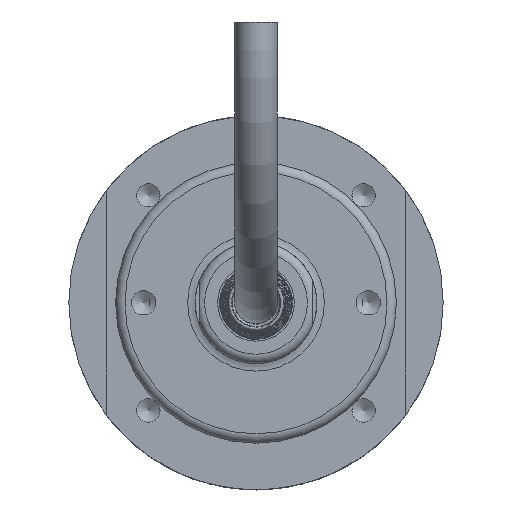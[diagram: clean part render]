
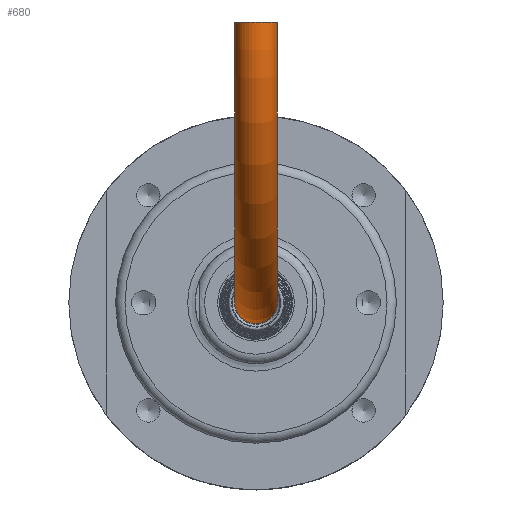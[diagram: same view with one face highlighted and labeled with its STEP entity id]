
A CAD part, front view. The second image highlights one B-rep face of the part: STEP entity #680.
In plain terms, the highlighted toroidal (fillet/blend) face has major radius 30 mm and minor radius 2.25 mm.
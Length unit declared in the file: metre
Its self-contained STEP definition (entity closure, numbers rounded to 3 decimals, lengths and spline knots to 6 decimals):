
#680 = ADVANCED_FACE( '', ( #893, #894 ), #895, .T. );
#893 = FACE_OUTER_BOUND( '', #12612, .T. );
#894 = FACE_OUTER_BOUND( '', #12613, .T. );
#895 = TOROIDAL_SURFACE( '', #12614, 0.03, 0.00225 );
#12612 = EDGE_LOOP( '', ( #13034 ) );
#12613 = EDGE_LOOP( '', ( #13035 ) );
#12614 = AXIS2_PLACEMENT_3D( '', #13036, #13037, #13038 );
#13034 = ORIENTED_EDGE( '', *, *, #13269, .T. );
#13035 = ORIENTED_EDGE( '', *, *, #13270, .F. );
#13036 = CARTESIAN_POINT( '', ( 0., -0.043, 0.03 ) );
#13037 = DIRECTION( '', ( -1., 0., 0. ) );
#13038 = DIRECTION( '', ( 0., 1., 0. ) );
#13269 = EDGE_CURVE( '', #13706, #13706, #13707, .T. );
#13270 = EDGE_CURVE( '', #13708, #13708, #13709, .T. );
#13706 = VERTEX_POINT( '', #18532 );
#13707 = CIRCLE( '', #18533, 0.00225 );
#13708 = VERTEX_POINT( '', #18534 );
#13709 = CIRCLE( '', #18535, 0.00225 );
#18532 = CARTESIAN_POINT( '', ( 0.00225, -0.043, 0. ) );
#18533 = AXIS2_PLACEMENT_3D( '', #18977, #18978, #18979 );
#18534 = CARTESIAN_POINT( '', ( 0., -0.07075, 0.03 ) );
#18535 = AXIS2_PLACEMENT_3D( '', #18980, #18981, #18982 );
#18977 = CARTESIAN_POINT( '', ( 0., -0.043, 0. ) );
#18978 = DIRECTION( '', ( 0., -1., 0. ) );
#18979 = DIRECTION( '', ( 1., 0., 0. ) );
#18980 = CARTESIAN_POINT( '', ( 0., -0.073, 0.03 ) );
#18981 = DIRECTION( '', ( 0., 0., 1. ) );
#18982 = DIRECTION( '', ( 0., 1., 0. ) );
